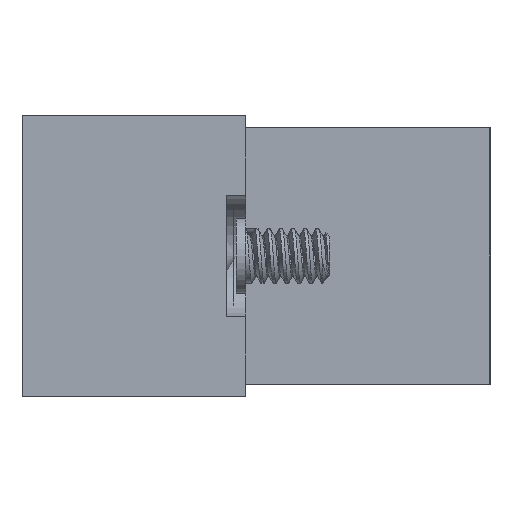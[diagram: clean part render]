
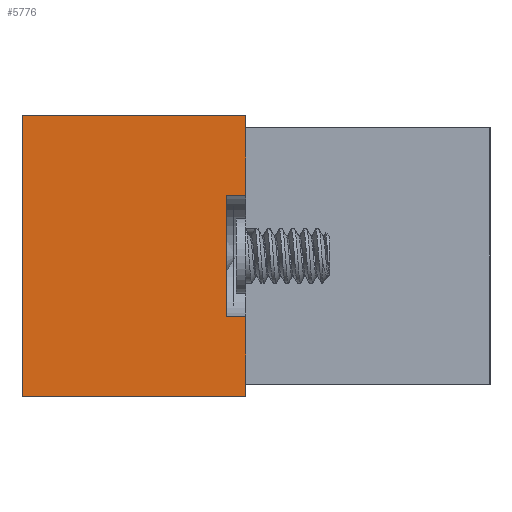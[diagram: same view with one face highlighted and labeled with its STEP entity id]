
A CAD part, left-side view. The second image highlights one B-rep face of the part: STEP entity #5776.
In plain terms, the highlighted planar face has unit normal (-1, 0, 0).
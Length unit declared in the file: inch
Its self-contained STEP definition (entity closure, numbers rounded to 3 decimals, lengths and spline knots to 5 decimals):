
#1274=CARTESIAN_POINT('',(-0.335,0.684,0.0));
#1275=VERTEX_POINT('',#1274);
#1290=CARTESIAN_POINT('',(-0.335,1.146,0.0));
#1291=VERTEX_POINT('',#1290);
#1298=CARTESIAN_POINT('',(-0.335,0.684,0.0));
#1299=DIRECTION('',(0.0,1.0,0.0));
#1300=VECTOR('',#1299,0.462);
#1301=LINE('',#1298,#1300);
#1302=EDGE_CURVE('',#1275,#1291,#1301,.T.);
#4654=CARTESIAN_POINT('',(-0.335,1.146,-0.58));
#4655=VERTEX_POINT('',#4654);
#4662=CARTESIAN_POINT('',(-0.335,1.146,0.0));
#4663=DIRECTION('',(0.0,0.0,-1.0));
#4664=VECTOR('',#4663,0.58);
#4665=LINE('',#4662,#4664);
#4666=EDGE_CURVE('',#1291,#4655,#4665,.T.);
#5527=CARTESIAN_POINT('',(-0.335,0.724,-0.165));
#5528=VERTEX_POINT('',#5527);
#5536=CARTESIAN_POINT('',(-0.335,0.684,-0.165));
#5537=VERTEX_POINT('',#5536);
#5544=CARTESIAN_POINT('',(-0.335,0.724,-0.165));
#5545=DIRECTION('',(0.0,-1.0,0.0));
#5546=VECTOR('',#5545,0.04);
#5547=LINE('',#5544,#5546);
#5548=EDGE_CURVE('',#5528,#5537,#5547,.T.);
#5558=CARTESIAN_POINT('',(-0.335,0.724,-0.415));
#5559=VERTEX_POINT('',#5558);
#5566=CARTESIAN_POINT('',(-0.335,0.684,-0.415));
#5567=VERTEX_POINT('',#5566);
#5568=CARTESIAN_POINT('',(-0.335,0.684,-0.415));
#5569=DIRECTION('',(0.0,1.0,0.0));
#5570=VECTOR('',#5569,0.04);
#5571=LINE('',#5568,#5570);
#5572=EDGE_CURVE('',#5567,#5559,#5571,.T.);
#5591=CARTESIAN_POINT('',(-0.335,0.724,-0.415));
#5592=DIRECTION('',(0.0,0.0,1.0));
#5593=VECTOR('',#5592,0.25);
#5594=LINE('',#5591,#5593);
#5595=EDGE_CURVE('',#5559,#5528,#5594,.T.);
#5744=CARTESIAN_POINT('',(-0.335,1.146,0.0));
#5745=DIRECTION('',(-1.0,0.0,0.0));
#5746=DIRECTION('',(0.0,0.0,1.0));
#5747=AXIS2_PLACEMENT_3D('',#5744,#5745,#5746);
#5748=PLANE('',#5747);
#5749=ORIENTED_EDGE('',*,*,#5572,.T.);
#5750=ORIENTED_EDGE('',*,*,#5595,.T.);
#5751=ORIENTED_EDGE('',*,*,#5548,.T.);
#5752=CARTESIAN_POINT('',(-0.335,0.684,0.0));
#5753=DIRECTION('',(0.0,0.0,-1.0));
#5754=VECTOR('',#5753,0.165);
#5755=LINE('',#5752,#5754);
#5756=EDGE_CURVE('',#1275,#5537,#5755,.T.);
#5757=ORIENTED_EDGE('',*,*,#5756,.F.);
#5758=ORIENTED_EDGE('',*,*,#1302,.T.);
#5759=ORIENTED_EDGE('',*,*,#4666,.T.);
#5760=CARTESIAN_POINT('',(-0.335,0.684,-0.58));
#5761=VERTEX_POINT('',#5760);
#5762=CARTESIAN_POINT('',(-0.335,1.146,-0.58));
#5763=DIRECTION('',(0.0,-1.0,0.0));
#5764=VECTOR('',#5763,0.462);
#5765=LINE('',#5762,#5764);
#5766=EDGE_CURVE('',#4655,#5761,#5765,.T.);
#5767=ORIENTED_EDGE('',*,*,#5766,.T.);
#5768=CARTESIAN_POINT('',(-0.335,0.684,-0.415));
#5769=DIRECTION('',(0.0,0.0,-1.0));
#5770=VECTOR('',#5769,0.165);
#5771=LINE('',#5768,#5770);
#5772=EDGE_CURVE('',#5567,#5761,#5771,.T.);
#5773=ORIENTED_EDGE('',*,*,#5772,.F.);
#5774=EDGE_LOOP('',(#5749,#5750,#5751,#5757,#5758,#5759,#5767,#5773));
#5775=FACE_OUTER_BOUND('',#5774,.T.);
#5776=ADVANCED_FACE('',(#5775),#5748,.T.);
